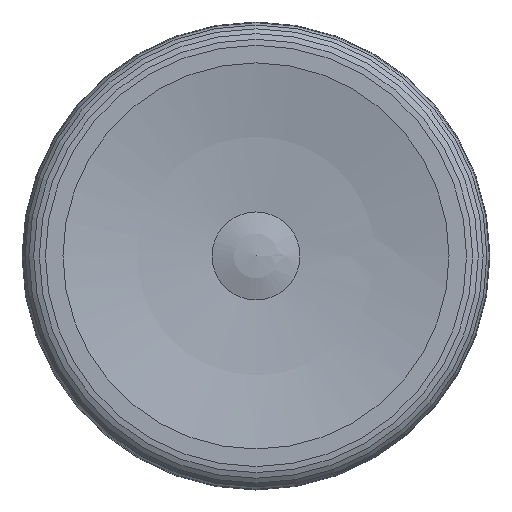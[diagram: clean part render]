
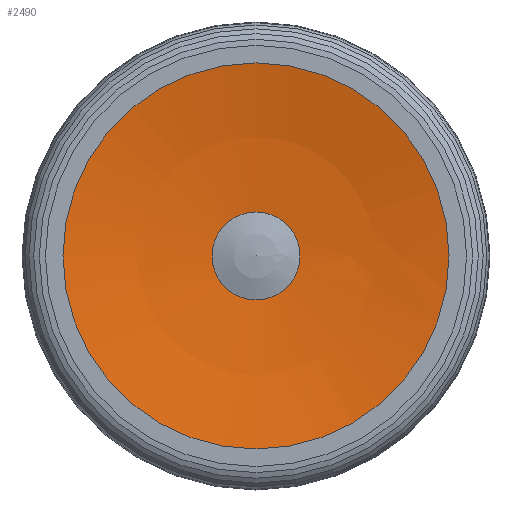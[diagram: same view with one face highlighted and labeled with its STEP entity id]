
A CAD part, top view. The second image highlights one B-rep face of the part: STEP entity #2490.
In plain terms, the highlighted spherical face has radius 15.732 mm.
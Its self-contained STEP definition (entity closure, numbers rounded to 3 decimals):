
#2443 = PLANE('',#2444);
#2444 = AXIS2_PLACEMENT_3D('',#2445,#2446,#2447);
#2445 = CARTESIAN_POINT('',(24.,-80.8,7.161));
#2446 = DIRECTION('',(0.,0.,1.));
#2447 = DIRECTION('',(1.,0.,-0.));
#2462 = EDGE_CURVE('',#2463,#2463,#2465,.T.);
#2463 = VERTEX_POINT('',#2464);
#2464 = CARTESIAN_POINT('',(27.3,-80.8,7.161));
#2465 = SURFACE_CURVE('',#2466,(#2471,#2478),.PCURVE_S1.);
#2466 = CIRCLE('',#2467,3.3);
#2467 = AXIS2_PLACEMENT_3D('',#2468,#2469,#2470);
#2468 = CARTESIAN_POINT('',(24.,-80.8,7.161));
#2469 = DIRECTION('',(0.,0.,1.));
#2470 = DIRECTION('',(1.,0.,-0.));
#2471 = PCURVE('',#2443,#2472);
#2472 = DEFINITIONAL_REPRESENTATION('',(#2473),#2477);
#2473 = CIRCLE('',#2474,3.3);
#2474 = AXIS2_PLACEMENT_2D('',#2475,#2476);
#2475 = CARTESIAN_POINT('',(0.,0.));
#2476 = DIRECTION('',(1.,0.));
#2477 = ( GEOMETRIC_REPRESENTATION_CONTEXT(2) 
PARAMETRIC_REPRESENTATION_CONTEXT() REPRESENTATION_CONTEXT('2D SPACE',''
  ) );
#2478 = PCURVE('',#2479,#2484);
#2479 = SPHERICAL_SURFACE('',#2480,15.732);
#2480 = AXIS2_PLACEMENT_3D('',#2481,#2482,#2483);
#2481 = CARTESIAN_POINT('',(24.,-80.8,22.544));
#2482 = DIRECTION('',(0.,0.,1.));
#2483 = DIRECTION('',(1.,0.,0.));
#2484 = DEFINITIONAL_REPRESENTATION('',(#2485),#2489);
#2485 = LINE('',#2486,#2487);
#2486 = CARTESIAN_POINT('',(0.,-1.359));
#2487 = VECTOR('',#2488,1.);
#2488 = DIRECTION('',(1.,0.));
#2489 = ( GEOMETRIC_REPRESENTATION_CONTEXT(2) 
PARAMETRIC_REPRESENTATION_CONTEXT() REPRESENTATION_CONTEXT('2D SPACE',''
  ) );
#2490 = ADVANCED_FACE('',(#2491),#2479,.F.);
#2491 = FACE_BOUND('',#2492,.F.);
#2492 = EDGE_LOOP('',(#2493,#2517,#2518,#2519));
#2493 = ORIENTED_EDGE('',*,*,#2494,.T.);
#2494 = EDGE_CURVE('',#2495,#2463,#2497,.T.);
#2495 = VERTEX_POINT('',#2496);
#2496 = CARTESIAN_POINT('',(24.752,-80.8,6.829));
#2497 = SEAM_CURVE('',#2498,(#2503,#2510),.PCURVE_S1.);
#2498 = CIRCLE('',#2499,15.732);
#2499 = AXIS2_PLACEMENT_3D('',#2500,#2501,#2502);
#2500 = CARTESIAN_POINT('',(24.,-80.8,22.544));
#2501 = DIRECTION('',(0.,-1.,0.));
#2502 = DIRECTION('',(1.,0.,0.));
#2503 = PCURVE('',#2479,#2504);
#2504 = DEFINITIONAL_REPRESENTATION('',(#2505),#2509);
#2505 = LINE('',#2506,#2507);
#2506 = CARTESIAN_POINT('',(6.283,-6.283));
#2507 = VECTOR('',#2508,1.);
#2508 = DIRECTION('',(0.,1.));
#2509 = ( GEOMETRIC_REPRESENTATION_CONTEXT(2) 
PARAMETRIC_REPRESENTATION_CONTEXT() REPRESENTATION_CONTEXT('2D SPACE',''
  ) );
#2510 = PCURVE('',#2479,#2511);
#2511 = DEFINITIONAL_REPRESENTATION('',(#2512),#2516);
#2512 = LINE('',#2513,#2514);
#2513 = CARTESIAN_POINT('',(0.,-6.283));
#2514 = VECTOR('',#2515,1.);
#2515 = DIRECTION('',(0.,1.));
#2516 = ( GEOMETRIC_REPRESENTATION_CONTEXT(2) 
PARAMETRIC_REPRESENTATION_CONTEXT() REPRESENTATION_CONTEXT('2D SPACE',''
  ) );
#2517 = ORIENTED_EDGE('',*,*,#2462,.F.);
#2518 = ORIENTED_EDGE('',*,*,#2494,.F.);
#2519 = ORIENTED_EDGE('',*,*,#2520,.F.);
#2520 = EDGE_CURVE('',#2495,#2495,#2521,.T.);
#2521 = SURFACE_CURVE('',#2522,(#2527,#2534),.PCURVE_S1.);
#2522 = CIRCLE('',#2523,0.752);
#2523 = AXIS2_PLACEMENT_3D('',#2524,#2525,#2526);
#2524 = CARTESIAN_POINT('',(24.,-80.8,6.829));
#2525 = DIRECTION('',(0.,0.,-1.));
#2526 = DIRECTION('',(0.,1.,0.));
#2527 = PCURVE('',#2479,#2528);
#2528 = DEFINITIONAL_REPRESENTATION('',(#2529),#2533);
#2529 = LINE('',#2530,#2531);
#2530 = CARTESIAN_POINT('',(7.854,-1.523));
#2531 = VECTOR('',#2532,1.);
#2532 = DIRECTION('',(-1.,0.));
#2533 = ( GEOMETRIC_REPRESENTATION_CONTEXT(2) 
PARAMETRIC_REPRESENTATION_CONTEXT() REPRESENTATION_CONTEXT('2D SPACE',''
  ) );
#2534 = PCURVE('',#2535,#2540);
#2535 = SPHERICAL_SURFACE('',#2536,2.208);
#2536 = AXIS2_PLACEMENT_3D('',#2537,#2538,#2539);
#2537 = CARTESIAN_POINT('',(24.,-80.8,4.753));
#2538 = DIRECTION('',(0.,0.,1.));
#2539 = DIRECTION('',(1.,0.,0.));
#2540 = DEFINITIONAL_REPRESENTATION('',(#2541),#2545);
#2541 = LINE('',#2542,#2543);
#2542 = CARTESIAN_POINT('',(7.854,1.223));
#2543 = VECTOR('',#2544,1.);
#2544 = DIRECTION('',(-1.,0.));
#2545 = ( GEOMETRIC_REPRESENTATION_CONTEXT(2) 
PARAMETRIC_REPRESENTATION_CONTEXT() REPRESENTATION_CONTEXT('2D SPACE',''
  ) );
